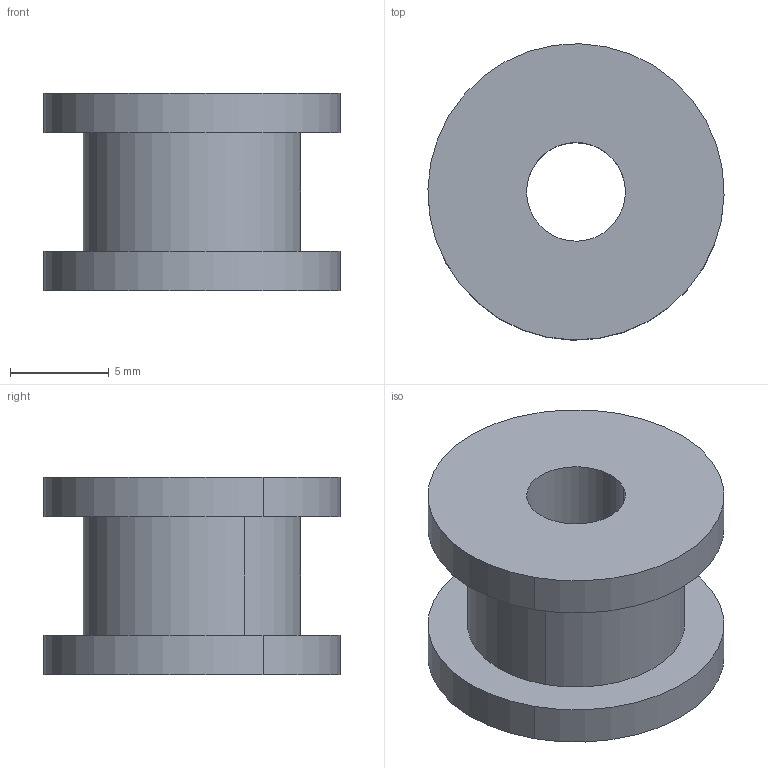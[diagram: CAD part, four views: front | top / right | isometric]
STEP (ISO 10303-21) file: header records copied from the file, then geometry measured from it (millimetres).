
FILE_DESCRIPTION(('CATIA V5 STEP Exchange'),'2;1');
FILE_NAME('C:\Users\user\Documents\Jakob\BAC - Arbeit 1\CAD Modell\CAD-Modell-Step files\Platzhalter\guide pulley.stp','2018-12-13T14:06:26+00:00',('none'),('none'),'Version 5-6 Release 2012','CATIA V5 STEP AP203','none');
FILE_SCHEMA(('CONFIG_CONTROL_DESIGN'));
Length unit declared in the file: millimetre
Products named in the file (1): guide pulley
Bounding box: 15 x 15 x 10 mm (x, y, z)
Volume: 1080.7 mm3; surface area: 1030.4 mm2
Topology: 1 solids, 1 shells, 12 faces, 24 edges, 16 vertices
Faces by surface type: cylinder 8, plane 4
Entity records: 329 total; most frequent: CARTESIAN_POINT 48, ORIENTED_EDGE 48, DIRECTION 38, AXIS2_PLACEMENT_3D 24, EDGE_CURVE 24, CIRCLE 16, EDGE_LOOP 16, VERTEX_POINT 16
